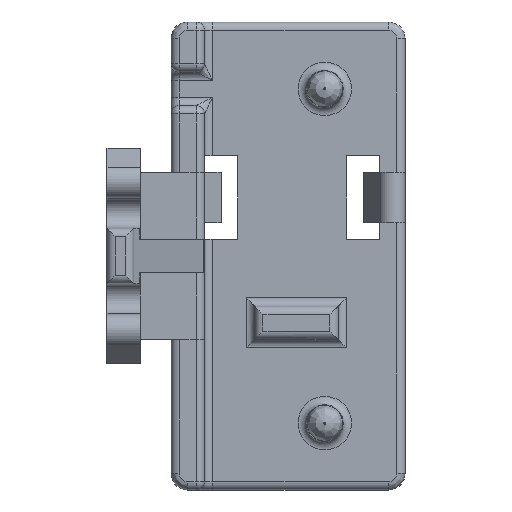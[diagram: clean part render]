
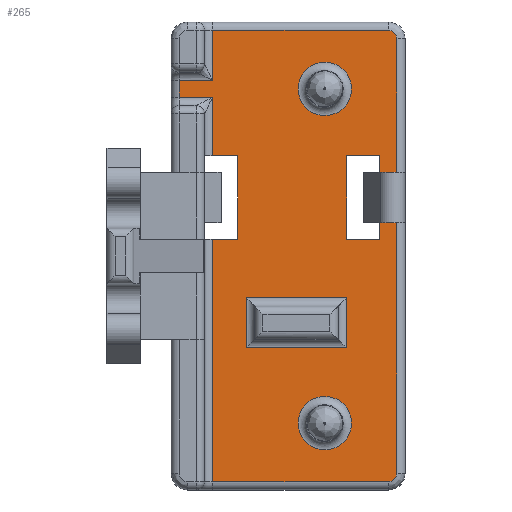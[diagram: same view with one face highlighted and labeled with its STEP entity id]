
A CAD part, left-side view. The second image highlights one B-rep face of the part: STEP entity #265.
In plain terms, the highlighted planar face has unit normal (-1, 0, 0).
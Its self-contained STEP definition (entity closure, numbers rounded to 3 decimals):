
#241=FACE_BOUND('',#701,.T.);
#242=FACE_BOUND('',#703,.T.);
#243=FACE_BOUND('',#704,.T.);
#265=ADVANCED_FACE('',(#241,#521,#242,#243),#452,.T.);
#452=PLANE('',#3231);
#521=FACE_OUTER_BOUND('',#702,.T.);
#701=EDGE_LOOP('',(#1086,#1087,#1088,#1089));
#702=EDGE_LOOP('',(#1090,#1091,#1092,#1093,#1094,#1095,#1096,#1097,#1098,
#1099,#1100,#1101,#1102,#1103,#1104,#1105,#1106,#1107,#1108,#1109,#1110,
#1111));
#703=EDGE_LOOP('',(#1112));
#704=EDGE_LOOP('',(#1113));
#903=CIRCLE('',#3227,0.5);
#904=CIRCLE('',#3228,0.5);
#905=CIRCLE('',#3229,1.6);
#906=CIRCLE('',#3230,1.6);
#1086=ORIENTED_EDGE('',*,*,#2258,.T.);
#1087=ORIENTED_EDGE('',*,*,#2259,.T.);
#1088=ORIENTED_EDGE('',*,*,#2260,.T.);
#1089=ORIENTED_EDGE('',*,*,#2261,.T.);
#1090=ORIENTED_EDGE('',*,*,#2262,.T.);
#1091=ORIENTED_EDGE('',*,*,#2263,.T.);
#1092=ORIENTED_EDGE('',*,*,#2264,.T.);
#1093=ORIENTED_EDGE('',*,*,#2265,.T.);
#1094=ORIENTED_EDGE('',*,*,#2266,.F.);
#1095=ORIENTED_EDGE('',*,*,#2267,.T.);
#1096=ORIENTED_EDGE('',*,*,#2268,.F.);
#1097=ORIENTED_EDGE('',*,*,#2269,.F.);
#1098=ORIENTED_EDGE('',*,*,#2270,.T.);
#1099=ORIENTED_EDGE('',*,*,#2271,.T.);
#1100=ORIENTED_EDGE('',*,*,#2272,.T.);
#1101=ORIENTED_EDGE('',*,*,#2273,.T.);
#1102=ORIENTED_EDGE('',*,*,#2274,.T.);
#1103=ORIENTED_EDGE('',*,*,#2275,.T.);
#1104=ORIENTED_EDGE('',*,*,#2276,.T.);
#1105=ORIENTED_EDGE('',*,*,#2277,.T.);
#1106=ORIENTED_EDGE('',*,*,#2278,.T.);
#1107=ORIENTED_EDGE('',*,*,#2279,.T.);
#1108=ORIENTED_EDGE('',*,*,#2280,.T.);
#1109=ORIENTED_EDGE('',*,*,#2281,.F.);
#1110=ORIENTED_EDGE('',*,*,#2282,.F.);
#1111=ORIENTED_EDGE('',*,*,#2283,.T.);
#1112=ORIENTED_EDGE('',*,*,#2284,.T.);
#1113=ORIENTED_EDGE('',*,*,#2285,.F.);
#1984=VERTEX_POINT('',#4612);
#1985=VERTEX_POINT('',#4613);
#1986=VERTEX_POINT('',#4615);
#1987=VERTEX_POINT('',#4617);
#1988=VERTEX_POINT('',#4620);
#1989=VERTEX_POINT('',#4621);
#1990=VERTEX_POINT('',#4623);
#1991=VERTEX_POINT('',#4625);
#1992=VERTEX_POINT('',#4627);
#1993=VERTEX_POINT('',#4629);
#1994=VERTEX_POINT('',#4631);
#1995=VERTEX_POINT('',#4633);
#1996=VERTEX_POINT('',#4635);
#1997=VERTEX_POINT('',#4637);
#1998=VERTEX_POINT('',#4639);
#1999=VERTEX_POINT('',#4641);
#2000=VERTEX_POINT('',#4643);
#2001=VERTEX_POINT('',#4645);
#2002=VERTEX_POINT('',#4647);
#2003=VERTEX_POINT('',#4649);
#2004=VERTEX_POINT('',#4651);
#2005=VERTEX_POINT('',#4653);
#2006=VERTEX_POINT('',#4655);
#2007=VERTEX_POINT('',#4657);
#2008=VERTEX_POINT('',#4659);
#2009=VERTEX_POINT('',#4661);
#2010=VERTEX_POINT('',#4664);
#2011=VERTEX_POINT('',#4666);
#2258=EDGE_CURVE('',#1984,#1985,#2703,.T.);
#2259=EDGE_CURVE('',#1985,#1986,#2704,.T.);
#2260=EDGE_CURVE('',#1986,#1987,#2705,.T.);
#2261=EDGE_CURVE('',#1987,#1984,#2706,.T.);
#2262=EDGE_CURVE('',#1988,#1989,#2707,.T.);
#2263=EDGE_CURVE('',#1989,#1990,#2708,.T.);
#2264=EDGE_CURVE('',#1990,#1991,#903,.T.);
#2265=EDGE_CURVE('',#1991,#1992,#2709,.T.);
#2266=EDGE_CURVE('',#1993,#1992,#2710,.T.);
#2267=EDGE_CURVE('',#1993,#1994,#2711,.T.);
#2268=EDGE_CURVE('',#1995,#1994,#2712,.T.);
#2269=EDGE_CURVE('',#1996,#1995,#2713,.T.);
#2270=EDGE_CURVE('',#1996,#1997,#2714,.T.);
#2271=EDGE_CURVE('',#1997,#1998,#2715,.T.);
#2272=EDGE_CURVE('',#1998,#1999,#2716,.T.);
#2273=EDGE_CURVE('',#1999,#2000,#2717,.T.);
#2274=EDGE_CURVE('',#2000,#2001,#904,.T.);
#2275=EDGE_CURVE('',#2001,#2002,#2718,.T.);
#2276=EDGE_CURVE('',#2002,#2003,#2719,.T.);
#2277=EDGE_CURVE('',#2003,#2004,#2720,.T.);
#2278=EDGE_CURVE('',#2004,#2005,#2721,.T.);
#2279=EDGE_CURVE('',#2005,#2006,#2722,.T.);
#2280=EDGE_CURVE('',#2006,#2007,#2723,.T.);
#2281=EDGE_CURVE('',#2008,#2007,#2724,.T.);
#2282=EDGE_CURVE('',#2009,#2008,#2725,.T.);
#2283=EDGE_CURVE('',#2009,#1988,#2726,.T.);
#2284=EDGE_CURVE('',#2010,#2010,#905,.T.);
#2285=EDGE_CURVE('',#2011,#2011,#906,.T.);
#2703=LINE('',#4611,#2979);
#2704=LINE('',#4614,#2980);
#2705=LINE('',#4616,#2981);
#2706=LINE('',#4618,#2982);
#2707=LINE('',#4619,#2983);
#2708=LINE('',#4622,#2984);
#2709=LINE('',#4626,#2985);
#2710=LINE('',#4628,#2986);
#2711=LINE('',#4630,#2987);
#2712=LINE('',#4632,#2988);
#2713=LINE('',#4634,#2989);
#2714=LINE('',#4636,#2990);
#2715=LINE('',#4638,#2991);
#2716=LINE('',#4640,#2992);
#2717=LINE('',#4642,#2993);
#2718=LINE('',#4646,#2994);
#2719=LINE('',#4648,#2995);
#2720=LINE('',#4650,#2996);
#2721=LINE('',#4652,#2997);
#2722=LINE('',#4654,#2998);
#2723=LINE('',#4656,#2999);
#2724=LINE('',#4658,#3000);
#2725=LINE('',#4660,#3001);
#2726=LINE('',#4662,#3002);
#2979=VECTOR('',#3615,1.);
#2980=VECTOR('',#3616,1.);
#2981=VECTOR('',#3617,1.);
#2982=VECTOR('',#3618,1.);
#2983=VECTOR('',#3619,1.);
#2984=VECTOR('',#3620,1.);
#2985=VECTOR('',#3623,1.);
#2986=VECTOR('',#3624,1.);
#2987=VECTOR('',#3625,1.);
#2988=VECTOR('',#3626,1.);
#2989=VECTOR('',#3627,1.);
#2990=VECTOR('',#3628,1.);
#2991=VECTOR('',#3629,1.);
#2992=VECTOR('',#3630,1.);
#2993=VECTOR('',#3631,1.);
#2994=VECTOR('',#3634,1.);
#2995=VECTOR('',#3635,1.);
#2996=VECTOR('',#3636,1.);
#2997=VECTOR('',#3637,1.);
#2998=VECTOR('',#3638,1.);
#2999=VECTOR('',#3639,1.);
#3000=VECTOR('',#3640,1.);
#3001=VECTOR('',#3641,1.);
#3002=VECTOR('',#3642,1.);
#3227=AXIS2_PLACEMENT_3D('',#4624,#3621,#3622);
#3228=AXIS2_PLACEMENT_3D('',#4644,#3632,#3633);
#3229=AXIS2_PLACEMENT_3D('',#4663,#3643,#3644);
#3230=AXIS2_PLACEMENT_3D('',#4665,#3645,#3646);
#3231=AXIS2_PLACEMENT_3D('',#4667,#3647,#3648);
#3615=DIRECTION('',(0.,1.,0.));
#3616=DIRECTION('',(0.,0.,1.));
#3617=DIRECTION('',(0.,-1.,0.));
#3618=DIRECTION('',(0.,0.,-1.));
#3619=DIRECTION('',(0.,0.,-1.));
#3620=DIRECTION('',(0.,-1.,0.));
#3621=DIRECTION('',(-1.,0.,0.));
#3622=DIRECTION('',(0.,0.,1.));
#3623=DIRECTION('',(0.,0.,1.));
#3624=DIRECTION('',(0.,-1.,0.));
#3625=DIRECTION('',(0.,0.,-1.));
#3626=DIRECTION('',(0.,-1.,0.));
#3627=DIRECTION('',(0.,0.,-1.));
#3628=DIRECTION('',(0.,-1.,0.));
#3629=DIRECTION('',(0.,0.,-1.));
#3630=DIRECTION('',(0.,-1.,0.));
#3631=DIRECTION('',(0.,0.,1.));
#3632=DIRECTION('',(-1.,0.,0.));
#3633=DIRECTION('',(0.,0.,1.));
#3634=DIRECTION('',(0.,1.,0.));
#3635=DIRECTION('',(0.,0.,-1.));
#3636=DIRECTION('',(0.,1.,0.));
#3637=DIRECTION('',(0.,0.,-1.));
#3638=DIRECTION('',(0.,-1.,0.));
#3639=DIRECTION('',(0.,0.,-1.));
#3640=DIRECTION('',(0.,1.,0.));
#3641=DIRECTION('',(0.,0.,1.));
#3642=DIRECTION('',(0.,1.,0.));
#3643=DIRECTION('',(1.,0.,0.));
#3644=DIRECTION('',(0.,0.,1.));
#3645=DIRECTION('',(-1.,0.,0.));
#3646=DIRECTION('',(0.,0.,-1.));
#3647=DIRECTION('',(-1.,0.,0.));
#3648=DIRECTION('',(0.,0.,1.));
#4611=CARTESIAN_POINT('',(5.955,-6.83,-5.5));
#4612=CARTESIAN_POINT('',(5.955,-12.33,-5.5));
#4613=CARTESIAN_POINT('',(5.955,-6.33,-5.5));
#4614=CARTESIAN_POINT('',(5.955,-6.33,-3.));
#4615=CARTESIAN_POINT('',(5.955,-6.33,-2.5));
#4616=CARTESIAN_POINT('',(5.955,-11.83,-2.5));
#4617=CARTESIAN_POINT('',(5.955,-12.33,-2.5));
#4618=CARTESIAN_POINT('',(5.955,-12.33,-5.));
#4619=CARTESIAN_POINT('',(5.955,-4.33,-14.));
#4620=CARTESIAN_POINT('',(5.955,-4.33,1.));
#4621=CARTESIAN_POINT('',(5.955,-4.33,-13.5));
#4622=CARTESIAN_POINT('',(5.955,-14.83,-13.5));
#4623=CARTESIAN_POINT('',(5.955,-14.83,-13.5));
#4624=CARTESIAN_POINT('',(5.955,-14.83,-13.));
#4625=CARTESIAN_POINT('',(5.955,-15.33,-13.));
#4626=CARTESIAN_POINT('',(5.955,-15.33,8.));
#4627=CARTESIAN_POINT('',(5.955,-15.33,2.));
#4628=CARTESIAN_POINT('',(5.955,-14.33,2.));
#4629=CARTESIAN_POINT('',(5.955,-14.33,2.));
#4630=CARTESIAN_POINT('',(5.955,-14.33,6.));
#4631=CARTESIAN_POINT('',(5.955,-14.33,1.));
#4632=CARTESIAN_POINT('',(5.955,-12.33,1.));
#4633=CARTESIAN_POINT('',(5.955,-12.33,1.));
#4634=CARTESIAN_POINT('',(5.955,-12.33,6.));
#4635=CARTESIAN_POINT('',(5.955,-12.33,6.));
#4636=CARTESIAN_POINT('',(5.955,-12.33,6.));
#4637=CARTESIAN_POINT('',(5.955,-14.33,6.));
#4638=CARTESIAN_POINT('',(5.955,-14.33,6.));
#4639=CARTESIAN_POINT('',(5.955,-14.33,5.));
#4640=CARTESIAN_POINT('',(5.955,-14.33,5.));
#4641=CARTESIAN_POINT('',(5.955,-15.33,5.));
#4642=CARTESIAN_POINT('',(5.955,-15.33,8.));
#4643=CARTESIAN_POINT('',(5.955,-15.33,13.));
#4644=CARTESIAN_POINT('',(5.955,-14.83,13.));
#4645=CARTESIAN_POINT('',(5.955,-14.83,13.5));
#4646=CARTESIAN_POINT('',(5.955,-4.33,13.5));
#4647=CARTESIAN_POINT('',(5.955,-4.33,13.5));
#4648=CARTESIAN_POINT('',(5.955,-4.33,10.5));
#4649=CARTESIAN_POINT('',(5.955,-4.33,10.5));
#4650=CARTESIAN_POINT('',(5.955,-1.83,10.5));
#4651=CARTESIAN_POINT('',(5.955,-2.33,10.5));
#4652=CARTESIAN_POINT('',(5.955,-2.33,9.5));
#4653=CARTESIAN_POINT('',(5.955,-2.33,9.5));
#4654=CARTESIAN_POINT('',(5.955,-1.83,9.5));
#4655=CARTESIAN_POINT('',(5.955,-4.33,9.5));
#4656=CARTESIAN_POINT('',(5.955,-4.33,6.));
#4657=CARTESIAN_POINT('',(5.955,-4.33,6.));
#4658=CARTESIAN_POINT('',(5.955,-5.83,6.));
#4659=CARTESIAN_POINT('',(5.955,-5.83,6.));
#4660=CARTESIAN_POINT('',(5.955,-5.83,1.));
#4661=CARTESIAN_POINT('',(5.955,-5.83,1.));
#4662=CARTESIAN_POINT('',(5.955,-5.83,1.));
#4663=CARTESIAN_POINT('',(5.955,-11.03,10.));
#4664=CARTESIAN_POINT('',(5.955,-11.03,11.6));
#4665=CARTESIAN_POINT('',(5.955,-11.03,-10.));
#4666=CARTESIAN_POINT('',(5.955,-11.03,-11.6));
#4667=CARTESIAN_POINT('',(5.955,-1.83,8.));
